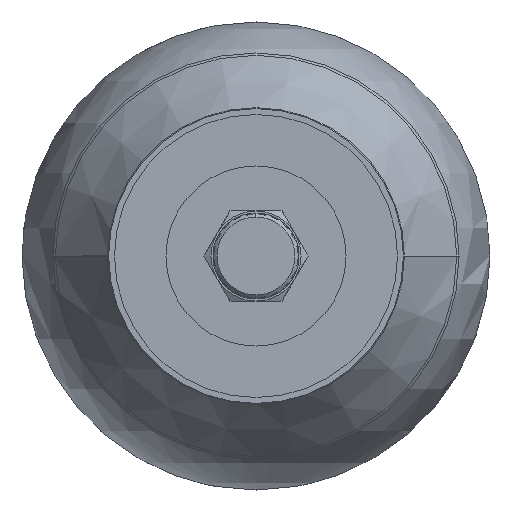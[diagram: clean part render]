
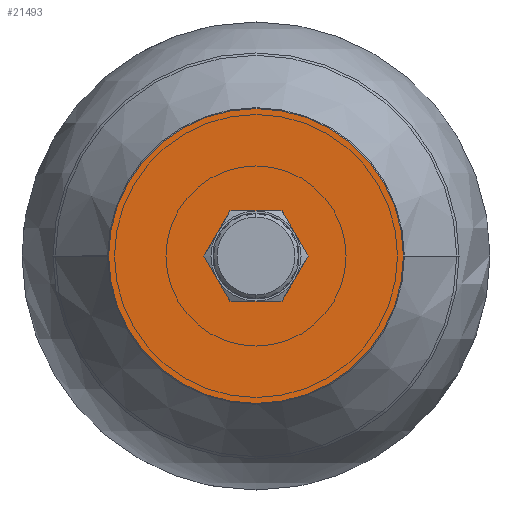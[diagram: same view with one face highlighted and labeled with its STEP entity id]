
A CAD part, left-side view. The second image highlights one B-rep face of the part: STEP entity #21493.
In plain terms, the highlighted planar face has unit normal (-1, 0, 0) as drawn and (0, 1, 0) by its records, which use the part's own axes.
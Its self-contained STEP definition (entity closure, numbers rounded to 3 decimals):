
#21217=CARTESIAN_POINT('',(-60.404,12.964,0.0));
#21218=VERTEX_POINT('',#21217);
#21234=CARTESIAN_POINT('',(11.596,12.964,0.));
#21235=VERTEX_POINT('',#21234);
#21242=CARTESIAN_POINT('',(-24.404,12.964,0.0));
#21243=DIRECTION('',(0.0,1.0,0.0));
#21244=DIRECTION('',(-1.0,0.0,0.0));
#21245=AXIS2_PLACEMENT_3D('',#21242,#21243,#21244);
#21246=CIRCLE('',#21245,36.0);
#21247=EDGE_CURVE('',#21218,#21235,#21246,.T.);
#21304=CARTESIAN_POINT('',(-24.404,12.964,0.0));
#21305=DIRECTION('',(0.0,1.0,0.0));
#21306=DIRECTION('',(-1.0,0.0,0.0));
#21307=AXIS2_PLACEMENT_3D('',#21304,#21305,#21306);
#21308=CIRCLE('',#21307,36.0);
#21309=EDGE_CURVE('',#21235,#21218,#21308,.T.);
#21418=CARTESIAN_POINT('',(-32.254,12.964,-1.543));
#21419=VERTEX_POINT('',#21418);
#21428=CARTESIAN_POINT('',(-32.254,12.964,1.543));
#21429=VERTEX_POINT('',#21428);
#21430=CARTESIAN_POINT('',(-32.404,12.964,0.0));
#21431=DIRECTION('',(0.0,-1.0,0.0));
#21432=DIRECTION('',(1.0,0.0,0.0));
#21433=AXIS2_PLACEMENT_3D('',#21430,#21431,#21432);
#21434=CIRCLE('',#21433,1.55);
#21435=EDGE_CURVE('',#21429,#21419,#21434,.T.);
#21474=CARTESIAN_POINT('',(-64.004,12.964,-39.6));
#21475=DIRECTION('',(0.0,1.0,0.0));
#21476=DIRECTION('',(0.0,0.0,1.0));
#21477=AXIS2_PLACEMENT_3D('',#21474,#21475,#21476);
#21478=PLANE('',#21477);
#21479=ORIENTED_EDGE('',*,*,#21309,.T.);
#21480=ORIENTED_EDGE('',*,*,#21247,.T.);
#21481=EDGE_LOOP('',(#21479,#21480));
#21482=FACE_OUTER_BOUND('',#21481,.T.);
#21483=ORIENTED_EDGE('',*,*,#21435,.T.);
#21484=CARTESIAN_POINT('',(-24.404,12.964,0.0));
#21485=DIRECTION('',(0.0,1.0,0.0));
#21486=DIRECTION('',(-1.0,0.0,0.0));
#21487=AXIS2_PLACEMENT_3D('',#21484,#21485,#21486);
#21488=CIRCLE('',#21487,8.0);
#21489=EDGE_CURVE('',#21429,#21419,#21488,.T.);
#21490=ORIENTED_EDGE('',*,*,#21489,.F.);
#21491=EDGE_LOOP('',(#21483,#21490));
#21492=FACE_BOUND('',#21491,.T.);
#21493=ADVANCED_FACE('',(#21482,#21492),#21478,.T.);
